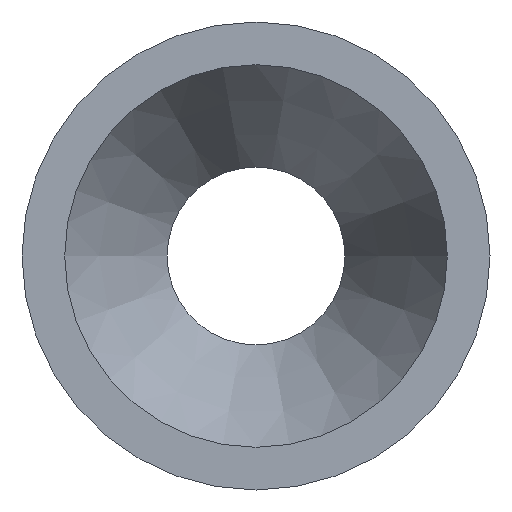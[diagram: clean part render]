
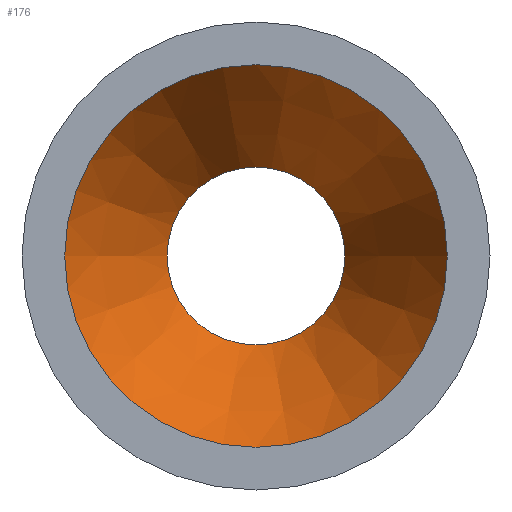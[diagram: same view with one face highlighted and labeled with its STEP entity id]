
A CAD part, left-side view. The second image highlights one B-rep face of the part: STEP entity #176.
In plain terms, the highlighted conical face has half-angle 28.301 degrees and reference radius 47.9 mm.
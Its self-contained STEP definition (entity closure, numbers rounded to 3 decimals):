
#128=CARTESIAN_POINT('',(172.319,30.4,0.));
#129=VERTEX_POINT('',#128);
#136=CARTESIAN_POINT('',(172.319,0.,0.));
#137=DIRECTION('',(1.,0.,0.));
#138=DIRECTION('',(0.,1.,0.));
#139=AXIS2_PLACEMENT_3D('',#136,#137,#138);
#140=CIRCLE('',#139,30.4);
#141=EDGE_CURVE('',#129,#129,#140,.T.);
#152=ORIENTED_EDGE('',*,*,#141,.T.);
#153=CARTESIAN_POINT('',(107.319,65.4,0.));
#154=VERTEX_POINT('',#153);
#155=CARTESIAN_POINT('',(139.819,47.9,0.));
#156=DIRECTION('',(0.88,-0.474,0.));
#157=VECTOR('',#156,47.9);
#158=LINE('',#155,#157);
#159=EDGE_CURVE('',#154,#129,#158,.T.);
#160=ORIENTED_EDGE('',*,*,#159,.F.);
#161=CARTESIAN_POINT('',(107.319,0.,0.));
#162=DIRECTION('',(1.,0.,0.));
#163=DIRECTION('',(0.,1.,0.));
#164=AXIS2_PLACEMENT_3D('',#161,#162,#163);
#165=CIRCLE('',#164,65.4);
#166=EDGE_CURVE('',#154,#154,#165,.T.);
#167=ORIENTED_EDGE('',*,*,#166,.F.);
#168=ORIENTED_EDGE('',*,*,#159,.T.);
#169=EDGE_LOOP('',(#152,#160,#167,#168));
#170=FACE_OUTER_BOUND('',#169,.T.);
#171=CARTESIAN_POINT('',(139.819,0.,0.));
#172=DIRECTION('',(-1.,0.,0.));
#173=DIRECTION('',(0.,1.,0.));
#174=AXIS2_PLACEMENT_3D('',#171,#172,#173);
#175=CONICAL_SURFACE('',#174,47.9,0.494);
#176=ADVANCED_FACE('',(#170),#175,.F.);
